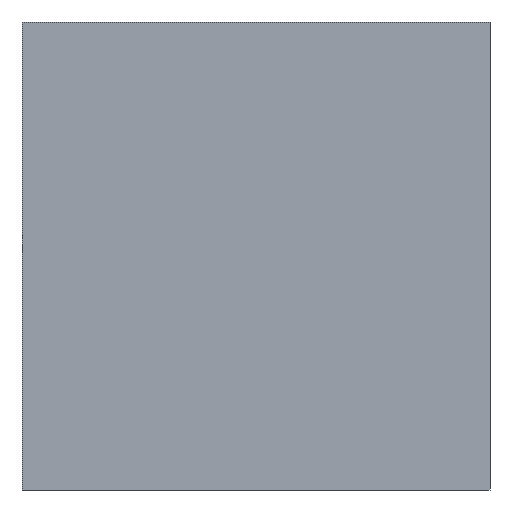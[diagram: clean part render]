
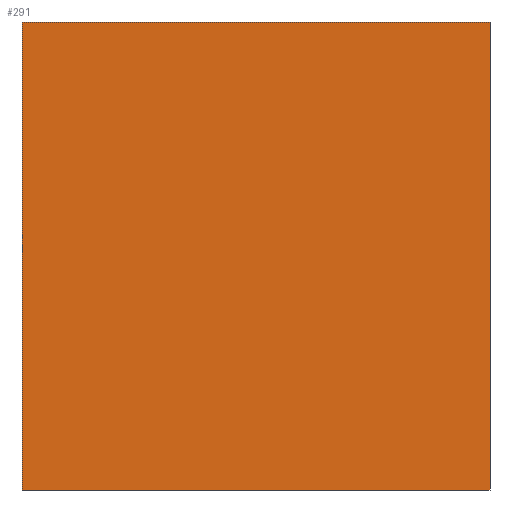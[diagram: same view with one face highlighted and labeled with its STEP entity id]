
A CAD part, front view. The second image highlights one B-rep face of the part: STEP entity #291.
In plain terms, the highlighted planar face has unit normal (0, -1, 0).
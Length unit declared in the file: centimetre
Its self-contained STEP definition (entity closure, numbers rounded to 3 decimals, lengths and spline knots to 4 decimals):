
#13 = VECTOR ( 'NONE', #152, 100. ) ;
#31 = CARTESIAN_POINT ( 'NONE',  ( 0., 0., 1000. ) ) ;
#49 = ORIENTED_EDGE ( 'NONE', *, *, #340, .T. ) ;
#69 = PLANE ( 'NONE',  #225 ) ;
#72 = CARTESIAN_POINT ( 'NONE',  ( 0., 0., 1000. ) ) ;
#75 = LINE ( 'NONE', #148, #94 ) ;
#94 = VECTOR ( 'NONE', #346, 100. ) ;
#105 = DIRECTION ( 'NONE',  ( 0., 0., -1. ) ) ;
#132 = VECTOR ( 'NONE', #187, 100. ) ;
#133 = ORIENTED_EDGE ( 'NONE', *, *, #399, .F. ) ;
#138 = CARTESIAN_POINT ( 'NONE',  ( 1000., 0., 0. ) ) ;
#148 = CARTESIAN_POINT ( 'NONE',  ( 1000., 0., 1000. ) ) ;
#152 = DIRECTION ( 'NONE',  ( 1., 0., 0. ) ) ;
#156 = EDGE_LOOP ( 'NONE', ( #49, #246, #133, #162 ) ) ;
#160 = EDGE_CURVE ( 'NONE', #310, #473, #290, .T. ) ;
#162 = ORIENTED_EDGE ( 'NONE', *, *, #160, .T. ) ;
#187 = DIRECTION ( 'NONE',  ( 1., 0., 0. ) ) ;
#223 = CARTESIAN_POINT ( 'NONE',  ( 0., 0., 1000. ) ) ;
#225 = AXIS2_PLACEMENT_3D ( 'NONE', #223, #338, #485 ) ;
#230 = LINE ( 'NONE', #455, #13 ) ;
#246 = ORIENTED_EDGE ( 'NONE', *, *, #396, .F. ) ;
#276 = CARTESIAN_POINT ( 'NONE',  ( 0., 0., 0. ) ) ;
#277 = VERTEX_POINT ( 'NONE', #138 ) ;
#290 = LINE ( 'NONE', #72, #378 ) ;
#291 = ADVANCED_FACE ( 'NONE', ( #416 ), #69, .F. ) ;
#310 = VERTEX_POINT ( 'NONE', #348 ) ;
#338 = DIRECTION ( 'NONE',  ( 0., 1., 0. ) ) ;
#340 = EDGE_CURVE ( 'NONE', #473, #277, #230, .T. ) ;
#342 = CARTESIAN_POINT ( 'NONE',  ( 1000., 0., 1000. ) ) ;
#346 = DIRECTION ( 'NONE',  ( 0., 0., -1. ) ) ;
#348 = CARTESIAN_POINT ( 'NONE',  ( 0., 0., 1000. ) ) ;
#378 = VECTOR ( 'NONE', #105, 100. ) ;
#381 = LINE ( 'NONE', #31, #132 ) ;
#396 = EDGE_CURVE ( 'NONE', #406, #277, #75, .T. ) ;
#399 = EDGE_CURVE ( 'NONE', #310, #406, #381, .T. ) ;
#406 = VERTEX_POINT ( 'NONE', #342 ) ;
#416 = FACE_OUTER_BOUND ( 'NONE', #156, .T. ) ;
#455 = CARTESIAN_POINT ( 'NONE',  ( 0., 0., 0. ) ) ;
#473 = VERTEX_POINT ( 'NONE', #276 ) ;
#485 = DIRECTION ( 'NONE',  ( 0., 0., 1. ) ) ;
